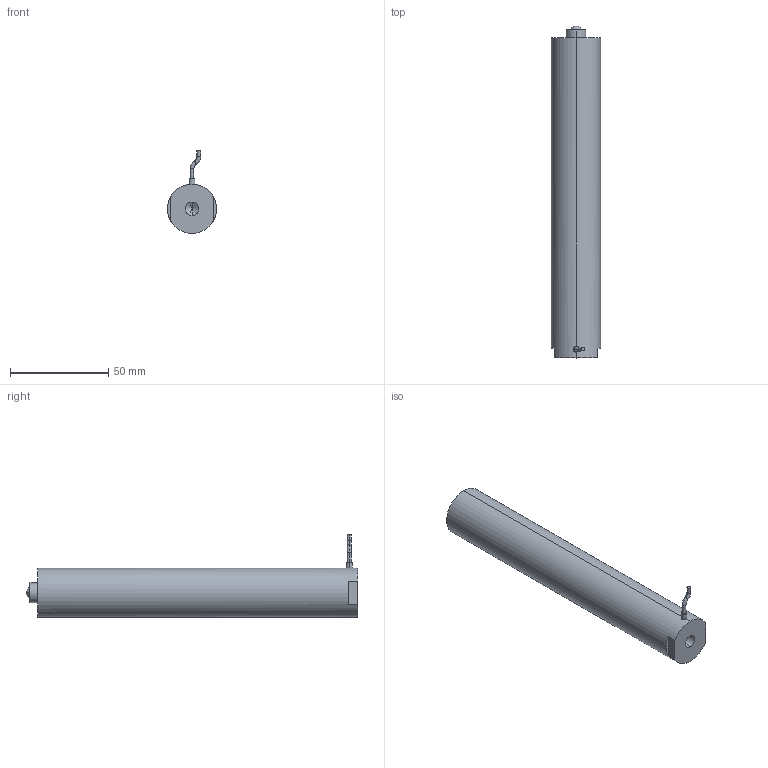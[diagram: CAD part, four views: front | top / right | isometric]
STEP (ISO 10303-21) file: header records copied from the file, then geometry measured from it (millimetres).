
FILE_DESCRIPTION (( 'STEP AP203' ), '1' );
FILE_NAME ('球头式160VS25.STEP', '2021-07-08T07:55:58', ( '微软用户' ), ( '微软公司' ), 'SwSTEP 2.0', 'SolidWorks 2016', '' );
FILE_SCHEMA (( 'CONFIG_CONTROL_DESIGN' ));
Products named in the file (1): ⑩芛宒160VS25
Bounding box: 25 x 169 x 42.06 mm (x, y, z)
Volume: 79889.8 mm3; surface area: 14281.8 mm2
Topology: 1 solids, 1 shells, 944 faces, 2558 edges, 1700 vertices
Faces by surface type: bspline 521, plane 311, cylinder 104, torus 4, sphere 2, cone 2
Entity records: 45072 total; most frequent: CARTESIAN_POINT 25929, ORIENTED_EDGE 5104, EDGE_CURVE 2552, DIRECTION 1952, B_SPLINE_CURVE_WITH_KNOTS 1724, VERTEX_POINT 1698, EDGE_LOOP 1032, FACE_OUTER_BOUND 944
